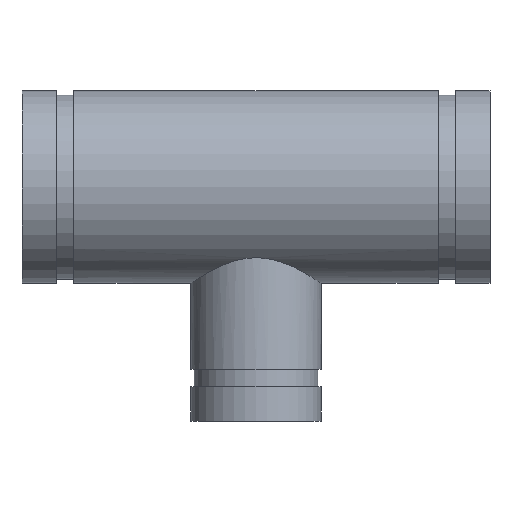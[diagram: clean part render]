
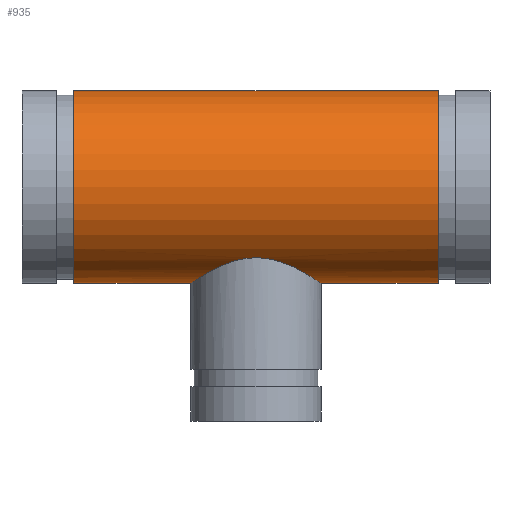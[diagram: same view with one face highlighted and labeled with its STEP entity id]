
A CAD part, top view. The second image highlights one B-rep face of the part: STEP entity #935.
In plain terms, the highlighted cylindrical face has radius 44.45 mm (diameter 88.9 mm), a full revolution.
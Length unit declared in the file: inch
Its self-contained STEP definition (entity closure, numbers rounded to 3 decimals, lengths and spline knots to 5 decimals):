
#61=FACE_BOUND('',#222,.T.);
#67=B_SPLINE_CURVE_WITH_KNOTS('',3,(#1807,#1808,#1809,#1810,#1811,#1812,
#1813,#1814,#1815,#1816,#1817,#1818,#1819,#1820,#1821,#1822,#1823,#1824),
 .UNSPECIFIED.,.F.,.F.,(4,2,2,2,2,2,2,2,4),(0.,0.59649,1.19298,
1.78948,2.38597,2.97526,3.56454,4.15383,
4.74312),.UNSPECIFIED.);
#68=B_SPLINE_CURVE_WITH_KNOTS('',3,(#1825,#1826,#1827,#1828,#1829,#1830,
#1831,#1832,#1833,#1834,#1835,#1836,#1837,#1838,#1839,#1840,#1841,#1842,
#1843,#1844,#1845,#1846,#1847,#1848,#1849,#1850,#1851,#1852,#1853,#1854,
#1855,#1856,#1857,#1858,#1859,#1860,#1861,#1862,#1863,#1864,#1865,#1866,
#1867,#1868,#1869,#1870,#1871,#1872,#1873,#1874),.UNSPECIFIED.,.F.,.F.,
(4,2,2,2,2,2,2,2,2,2,2,2,2,2,2,2,2,2,2,2,2,2,2,2,4),(4.74312,5.33241,
5.92169,6.51098,7.10027,7.69676,8.29325,
8.88975,9.48624,10.08273,10.67922,11.27571,
11.8722,12.46149,13.05078,13.64007,14.22936,
14.81864,15.40793,15.99722,16.58651,17.183,
17.77949,18.37598,18.97248),.UNSPECIFIED.);
#81=CYLINDRICAL_SURFACE('',#1104,1.75);
#103=LINE('',#1804,#125);
#125=VECTOR('',#1432,1.75);
#171=FACE_OUTER_BOUND('',#221,.T.);
#221=EDGE_LOOP('',(#814,#815,#816,#817));
#222=EDGE_LOOP('',(#818,#819));
#326=CIRCLE('',#1087,1.75);
#337=CIRCLE('',#1103,1.75);
#424=VERTEX_POINT('',#1772);
#435=VERTEX_POINT('',#1801);
#436=VERTEX_POINT('',#1805);
#437=VERTEX_POINT('',#1806);
#552=EDGE_CURVE('',#424,#424,#326,.T.);
#565=EDGE_CURVE('',#435,#435,#337,.T.);
#566=EDGE_CURVE('',#435,#424,#103,.T.);
#567=EDGE_CURVE('',#436,#437,#67,.T.);
#568=EDGE_CURVE('',#437,#436,#68,.T.);
#814=ORIENTED_EDGE('',*,*,#565,.T.);
#815=ORIENTED_EDGE('',*,*,#566,.T.);
#816=ORIENTED_EDGE('',*,*,#552,.T.);
#817=ORIENTED_EDGE('',*,*,#566,.F.);
#818=ORIENTED_EDGE('',*,*,#567,.T.);
#819=ORIENTED_EDGE('',*,*,#568,.T.);
#935=ADVANCED_FACE('',(#171,#61),#81,.T.);
#1087=AXIS2_PLACEMENT_3D('',#1773,#1394,#1395);
#1103=AXIS2_PLACEMENT_3D('',#1802,#1428,#1429);
#1104=AXIS2_PLACEMENT_3D('',#1803,#1430,#1431);
#1394=DIRECTION('center_axis',(-1.,0.,0.));
#1395=DIRECTION('ref_axis',(0.,-1.,0.));
#1428=DIRECTION('center_axis',(1.,0.,0.));
#1429=DIRECTION('ref_axis',(0.,-1.,0.));
#1430=DIRECTION('center_axis',(-1.,0.,0.));
#1431=DIRECTION('ref_axis',(0.,-1.,0.));
#1432=DIRECTION('',(1.,0.,0.));
#1772=CARTESIAN_POINT('',(3.312,1.75,0.));
#1773=CARTESIAN_POINT('Origin',(3.312,0.,0.));
#1801=CARTESIAN_POINT('',(-3.312,1.75,0.));
#1802=CARTESIAN_POINT('Origin',(-3.312,0.,0.));
#1803=CARTESIAN_POINT('Origin',(4.25,0.,0.));
#1804=CARTESIAN_POINT('',(4.25,1.75,0.));
#1805=CARTESIAN_POINT('',(0.,-1.28544,-1.1875));
#1806=CARTESIAN_POINT('',(-1.1875,-1.75,0.));
#1807=CARTESIAN_POINT('Ctrl Pts',(0.,-1.28544,
-1.1875));
#1808=CARTESIAN_POINT('Ctrl Pts',(-0.07828,-1.28544,
-1.1875));
#1809=CARTESIAN_POINT('Ctrl Pts',(-0.15768,-1.29281,
-1.17966));
#1810=CARTESIAN_POINT('Ctrl Pts',(-0.31324,-1.32084,
-1.14819));
#1811=CARTESIAN_POINT('Ctrl Pts',(-0.38943,-1.3414,
-1.12458));
#1812=CARTESIAN_POINT('Ctrl Pts',(-0.53421,-1.39035,
-1.06346));
#1813=CARTESIAN_POINT('Ctrl Pts',(-0.60296,-1.41871,
-1.0259));
#1814=CARTESIAN_POINT('Ctrl Pts',(-0.72989,-1.47713,
-0.93984));
#1815=CARTESIAN_POINT('Ctrl Pts',(-0.78806,-1.50716,
-0.89132));
#1816=CARTESIAN_POINT('Ctrl Pts',(-0.89069,-1.56328,
-0.78869));
#1817=CARTESIAN_POINT('Ctrl Pts',(-0.9391,-1.59156,
-0.73085));
#1818=CARTESIAN_POINT('Ctrl Pts',(-1.02536,-1.64394,-0.60389));
#1819=CARTESIAN_POINT('Ctrl Pts',(-1.06323,-1.66801,-0.53475));
#1820=CARTESIAN_POINT('Ctrl Pts',(-1.12474,-1.70787,-0.38906));
#1821=CARTESIAN_POINT('Ctrl Pts',(-1.14844,-1.72369,-0.31236));
#1822=CARTESIAN_POINT('Ctrl Pts',(-1.17982,-1.74476,-0.1565));
#1823=CARTESIAN_POINT('Ctrl Pts',(-1.1875,-1.75,-0.07733));
#1824=CARTESIAN_POINT('Ctrl Pts',(-1.1875,-1.75,0.));
#1825=CARTESIAN_POINT('Ctrl Pts',(-1.1875,-1.75,0.));
#1826=CARTESIAN_POINT('Ctrl Pts',(-1.1875,-1.75,0.07733));
#1827=CARTESIAN_POINT('Ctrl Pts',(-1.17982,-1.74476,0.1565));
#1828=CARTESIAN_POINT('Ctrl Pts',(-1.14844,-1.72369,0.31236));
#1829=CARTESIAN_POINT('Ctrl Pts',(-1.12474,-1.70787,0.38906));
#1830=CARTESIAN_POINT('Ctrl Pts',(-1.06323,-1.66801,0.53475));
#1831=CARTESIAN_POINT('Ctrl Pts',(-1.02536,-1.64394,0.60389));
#1832=CARTESIAN_POINT('Ctrl Pts',(-0.9391,-1.59156,
0.73085));
#1833=CARTESIAN_POINT('Ctrl Pts',(-0.89069,-1.56328,
0.78869));
#1834=CARTESIAN_POINT('Ctrl Pts',(-0.78806,-1.50716,
0.89132));
#1835=CARTESIAN_POINT('Ctrl Pts',(-0.72989,-1.47713,
0.93984));
#1836=CARTESIAN_POINT('Ctrl Pts',(-0.60296,-1.41871,
1.0259));
#1837=CARTESIAN_POINT('Ctrl Pts',(-0.53421,-1.39035,
1.06346));
#1838=CARTESIAN_POINT('Ctrl Pts',(-0.38943,-1.3414,
1.12458));
#1839=CARTESIAN_POINT('Ctrl Pts',(-0.31324,-1.32084,
1.14819));
#1840=CARTESIAN_POINT('Ctrl Pts',(-0.15768,-1.29281,
1.17966));
#1841=CARTESIAN_POINT('Ctrl Pts',(-0.07828,-1.28544,1.1875));
#1842=CARTESIAN_POINT('Ctrl Pts',(0.07828,-1.28544,1.1875));
#1843=CARTESIAN_POINT('Ctrl Pts',(0.15768,-1.29281,1.17966));
#1844=CARTESIAN_POINT('Ctrl Pts',(0.31324,-1.32084,1.14819));
#1845=CARTESIAN_POINT('Ctrl Pts',(0.38943,-1.3414,1.12458));
#1846=CARTESIAN_POINT('Ctrl Pts',(0.53421,-1.39035,1.06346));
#1847=CARTESIAN_POINT('Ctrl Pts',(0.60296,-1.41871,1.0259));
#1848=CARTESIAN_POINT('Ctrl Pts',(0.72989,-1.47713,0.93984));
#1849=CARTESIAN_POINT('Ctrl Pts',(0.78806,-1.50716,0.89132));
#1850=CARTESIAN_POINT('Ctrl Pts',(0.89069,-1.56328,0.78869));
#1851=CARTESIAN_POINT('Ctrl Pts',(0.9391,-1.59156,0.73085));
#1852=CARTESIAN_POINT('Ctrl Pts',(1.02536,-1.64394,0.60389));
#1853=CARTESIAN_POINT('Ctrl Pts',(1.06323,-1.66801,0.53475));
#1854=CARTESIAN_POINT('Ctrl Pts',(1.12474,-1.70787,0.38906));
#1855=CARTESIAN_POINT('Ctrl Pts',(1.14844,-1.72369,0.31236));
#1856=CARTESIAN_POINT('Ctrl Pts',(1.17982,-1.74476,0.1565));
#1857=CARTESIAN_POINT('Ctrl Pts',(1.1875,-1.75,0.07733));
#1858=CARTESIAN_POINT('Ctrl Pts',(1.1875,-1.75,-0.07733));
#1859=CARTESIAN_POINT('Ctrl Pts',(1.17982,-1.74476,-0.1565));
#1860=CARTESIAN_POINT('Ctrl Pts',(1.14844,-1.72369,-0.31236));
#1861=CARTESIAN_POINT('Ctrl Pts',(1.12474,-1.70787,-0.38906));
#1862=CARTESIAN_POINT('Ctrl Pts',(1.06323,-1.66801,-0.53475));
#1863=CARTESIAN_POINT('Ctrl Pts',(1.02536,-1.64394,-0.60389));
#1864=CARTESIAN_POINT('Ctrl Pts',(0.9391,-1.59156,-0.73085));
#1865=CARTESIAN_POINT('Ctrl Pts',(0.89069,-1.56328,-0.78869));
#1866=CARTESIAN_POINT('Ctrl Pts',(0.78806,-1.50716,-0.89132));
#1867=CARTESIAN_POINT('Ctrl Pts',(0.72989,-1.47713,-0.93984));
#1868=CARTESIAN_POINT('Ctrl Pts',(0.60296,-1.41871,-1.0259));
#1869=CARTESIAN_POINT('Ctrl Pts',(0.53421,-1.39035,-1.06346));
#1870=CARTESIAN_POINT('Ctrl Pts',(0.38943,-1.3414,-1.12458));
#1871=CARTESIAN_POINT('Ctrl Pts',(0.31324,-1.32084,-1.14819));
#1872=CARTESIAN_POINT('Ctrl Pts',(0.15768,-1.29281,-1.17966));
#1873=CARTESIAN_POINT('Ctrl Pts',(0.07828,-1.28544,-1.1875));
#1874=CARTESIAN_POINT('Ctrl Pts',(0.,-1.28544,
-1.1875));
